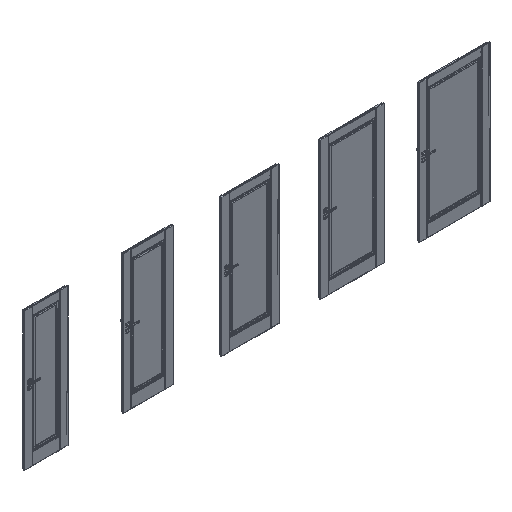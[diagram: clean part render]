
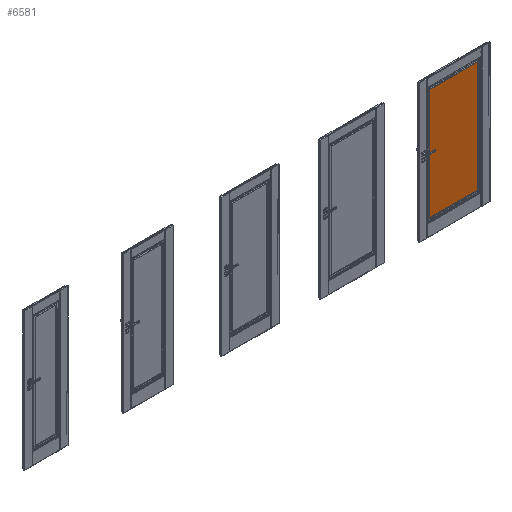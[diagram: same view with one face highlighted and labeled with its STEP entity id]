
A CAD part, isometric view. The second image highlights one B-rep face of the part: STEP entity #6581.
In plain terms, the highlighted planar face has unit normal (0, -1, 0).
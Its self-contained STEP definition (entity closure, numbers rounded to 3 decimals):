
#6581=ADVANCED_FACE('',(#10498),#8117,.F.);
#8117=PLANE('',#49122);
#10498=FACE_OUTER_BOUND('',#13129,.T.);
#13129=EDGE_LOOP('',(#24925,#24926,#24927,#24928));
#24925=ORIENTED_EDGE('',*,*,#36367,.F.);
#24926=ORIENTED_EDGE('',*,*,#36376,.F.);
#24927=ORIENTED_EDGE('',*,*,#36372,.T.);
#24928=ORIENTED_EDGE('',*,*,#36377,.T.);
#30147=VERTEX_POINT('',#82540);
#30148=VERTEX_POINT('',#82542);
#30150=VERTEX_POINT('',#82547);
#30152=VERTEX_POINT('',#82551);
#36367=EDGE_CURVE('',#30147,#30148,#40995,.T.);
#36372=EDGE_CURVE('',#30150,#30152,#40997,.T.);
#36376=EDGE_CURVE('',#30150,#30147,#40999,.T.);
#36377=EDGE_CURVE('',#30152,#30148,#41000,.T.);
#40995=LINE('',#82541,#45310);
#40997=LINE('',#82552,#45312);
#40999=LINE('',#82559,#45314);
#41000=LINE('',#82561,#45315);
#45310=VECTOR('',#60043,1.);
#45312=VECTOR('',#60053,1.);
#45314=VECTOR('',#60065,1.);
#45315=VECTOR('',#60068,1.);
#49122=AXIS2_PLACEMENT_3D('',#82565,#60074,#60075);
#60043=DIRECTION('',(1.,0.,0.));
#60053=DIRECTION('',(1.,0.,0.));
#60065=DIRECTION('',(0.,0.,1.));
#60068=DIRECTION('',(0.,0.,1.));
#60074=DIRECTION('',(0.,1.,0.));
#60075=DIRECTION('',(0.,0.,1.));
#82540=CARTESIAN_POINT('',(5648.012,-29.,1859.988));
#82541=CARTESIAN_POINT('',(5776.,-29.,1859.988));
#82542=CARTESIAN_POINT('',(6351.988,-29.,1859.988));
#82547=CARTESIAN_POINT('',(5648.012,-29.,228.012));
#82551=CARTESIAN_POINT('',(6351.988,-29.,228.012));
#82552=CARTESIAN_POINT('',(5776.,-29.,228.012));
#82559=CARTESIAN_POINT('',(5648.012,-29.,156.));
#82561=CARTESIAN_POINT('',(6351.988,-29.,1932.));
#82565=CARTESIAN_POINT('',(5776.,-29.,1932.));
